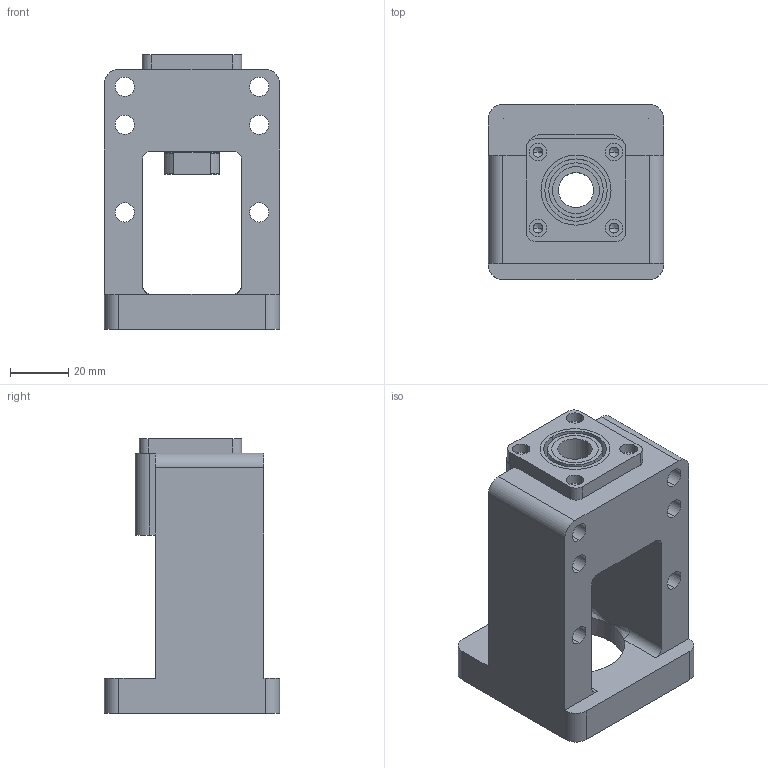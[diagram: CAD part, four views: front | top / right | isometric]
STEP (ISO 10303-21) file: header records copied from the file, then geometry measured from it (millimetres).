
FILE_DESCRIPTION (( 'STEP AP203' ), '1' );
FILE_NAME ('12-60釱.STEP', '2020-08-08T11:54:56', ( '' ), ( '' ), 'SwSTEP 2.0', 'SolidWorks 2020', '' );
FILE_SCHEMA (( 'CONFIG_CONTROL_DESIGN' ));
Length unit declared in the file: millimetre
Products named in the file (6): 粣杶12-60釱; 12-60釱; 深沟球轴承 6001_Rolling bearings 6001 GB 276-94; 蚐猾12-60; RN12
Assembly tree (6 placements, depth 2):
  12-60釱
    12-60釱
    深沟球轴承 6001_Rolling bearings 6001 GB 276-94  x2
    RN12
    粣杶12-60釱
    蚐猾12-60
Bounding box: 60 x 60 x 94 mm (x, y, z)
Volume: 132878.1 mm3; surface area: 53533.9 mm2
Topology: 9 solids, 9 shells, 383 faces, 1396 edges, 922 vertices
Faces by surface type: cylinder 132, torus 106, plane 59, sphere 56, cone 26, bspline 4
Entity records: 11526 total; most frequent: CARTESIAN_POINT 3230, ORIENTED_EDGE 1660, DIRECTION 1598, EDGE_CURVE 830, AXIS2_PLACEMENT_3D 693, VERTEX_POINT 553, CIRCLE 402, EDGE_LOOP 347
